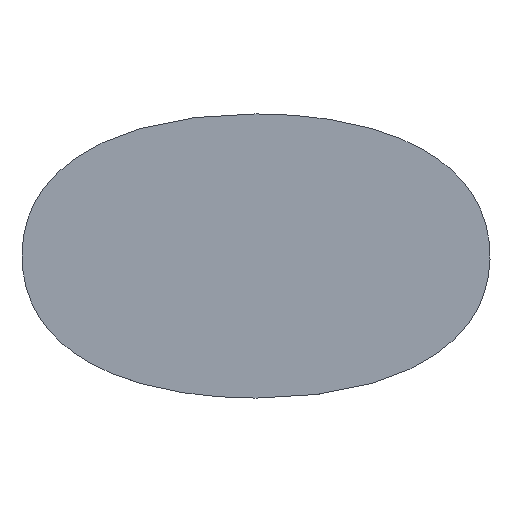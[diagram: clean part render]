
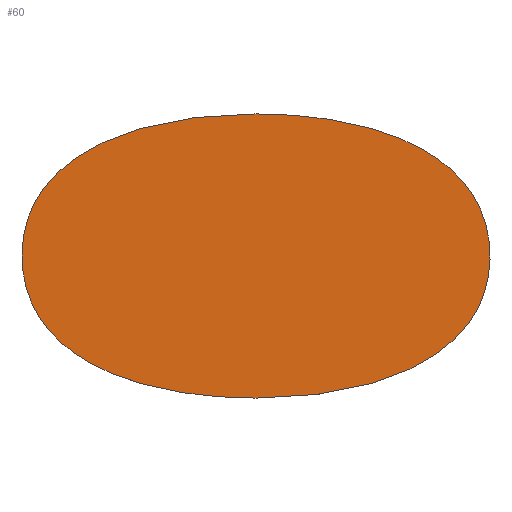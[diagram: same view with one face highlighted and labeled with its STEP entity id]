
A CAD part, top view. The second image highlights one B-rep face of the part: STEP entity #60.
In plain terms, the highlighted planar face has unit normal (0, 0, 1).
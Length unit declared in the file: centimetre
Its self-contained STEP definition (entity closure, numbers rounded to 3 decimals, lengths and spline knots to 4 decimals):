
#60=ADVANCED_FACE($,(#78),#245,.T.);
#78=FACE_OUTER_BOUND($,#96,.T.);
#96=EDGE_LOOP($,(#118,#119));
#118=ORIENTED_EDGE($,*,*,#187,.T.);
#119=ORIENTED_EDGE($,*,*,#188,.T.);
#187=EDGE_CURVE($,#221,#223,#255,.T.);
#188=EDGE_CURVE($,#223,#221,#256,.T.);
#221=VERTEX_POINT($,#427);
#223=VERTEX_POINT($,#429);
#245=PLANE($,#347);
#255=B_SPLINE_CURVE_WITH_KNOTS($,3,(#380,#381,#382,#383,#384,#385,#386),
.UNSPECIFIED.,.F.,.F.,(4,3,4),(0.,1.,2.),.UNSPECIFIED.);
#256=B_SPLINE_CURVE_WITH_KNOTS($,3,(#387,#388,#389,#390,#391,#392,#393),
.UNSPECIFIED.,.F.,.F.,(4,3,4),(2.,3.,4.),.UNSPECIFIED.);
#347=AXIS2_PLACEMENT_3D($,#411,#356,$);
#356=DIRECTION($,(0.,0.,1.));
#380=CARTESIAN_POINT($,(73.7432,0.7488,41.7));
#381=CARTESIAN_POINT($,(112.4036,0.7488,41.7));
#382=CARTESIAN_POINT($,(143.7432,14.3707,41.7));
#383=CARTESIAN_POINT($,(143.7432,43.249,41.7));
#384=CARTESIAN_POINT($,(143.7432,72.1268,41.7));
#385=CARTESIAN_POINT($,(112.4036,85.7488,41.7));
#386=CARTESIAN_POINT($,(73.7432,85.7488,41.7));
#387=CARTESIAN_POINT($,(73.7432,85.7488,41.7));
#388=CARTESIAN_POINT($,(35.0828,85.7488,41.7));
#389=CARTESIAN_POINT($,(3.7432,72.1268,41.7));
#390=CARTESIAN_POINT($,(3.7432,43.249,41.7));
#391=CARTESIAN_POINT($,(3.7432,14.3707,41.7));
#392=CARTESIAN_POINT($,(35.0828,0.7488,41.7));
#393=CARTESIAN_POINT($,(73.7432,0.7488,41.7));
#411=CARTESIAN_POINT($,(2.3432,-0.1012,41.7));
#427=CARTESIAN_POINT($,(73.7432,0.7488,41.7));
#429=CARTESIAN_POINT($,(73.7432,85.7488,41.7));
